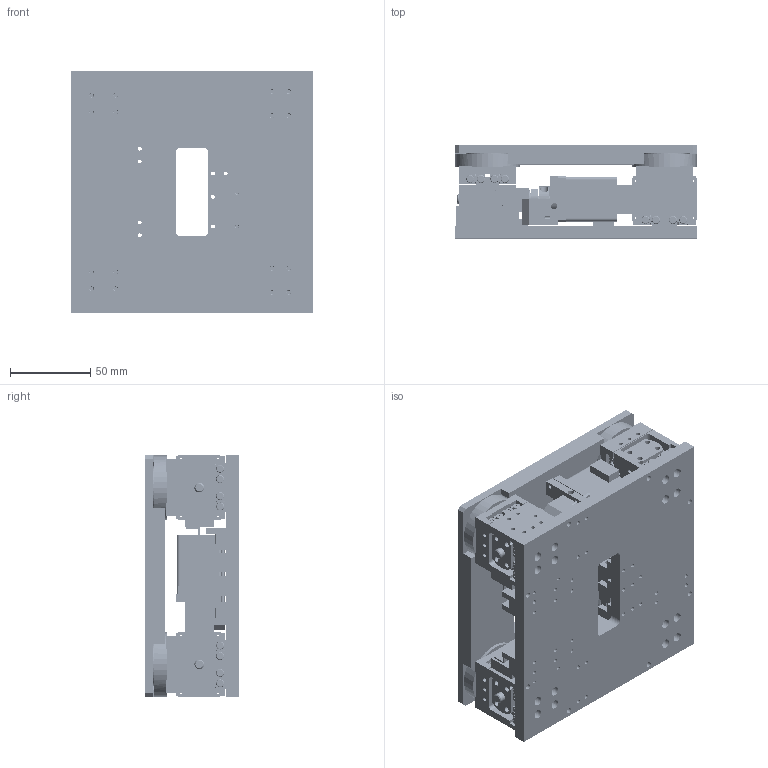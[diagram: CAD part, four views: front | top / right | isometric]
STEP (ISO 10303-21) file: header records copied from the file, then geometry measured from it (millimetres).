
FILE_DESCRIPTION (( 'STEP AP214' ), '1' );
FILE_NAME ('XXY150A-PM28.STEP', '2025-01-03T07:54:25', ( '' ), ( '' ), 'SwSTEP 2.0', 'SolidWorks 2020', '' );
FILE_SCHEMA (( 'AUTOMOTIVE_DESIGN' ));
Length unit declared in the file: millimetre
Products named in the file (1): XXY150A-PM28
Bounding box: 150 x 58 x 150 mm (x, y, z)
Surface area: 266651.7 mm2 (no closed solid volume)
Topology: 0 solids, 49 shells, 5467 faces, 14062 edges, 8857 vertices
Faces by surface type: plane 2972, cylinder 1746, bspline 380, cone 369
Entity records: 179162 total; most frequent: CARTESIAN_POINT 45974, DIRECTION 27536, ORIENTED_EDGE 27100, EDGE_CURVE 13574, AXIS2_PLACEMENT_3D 9332, VECTOR 8872, LINE 8872, VERTEX_POINT 8857
